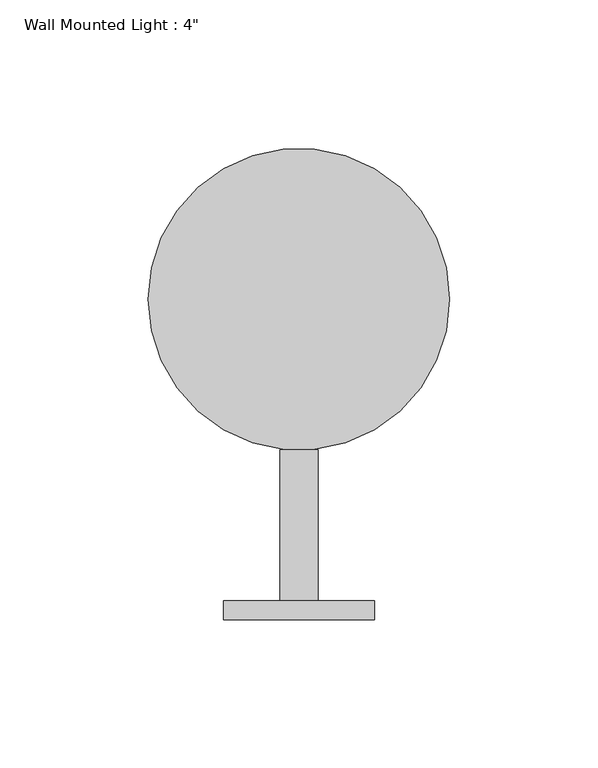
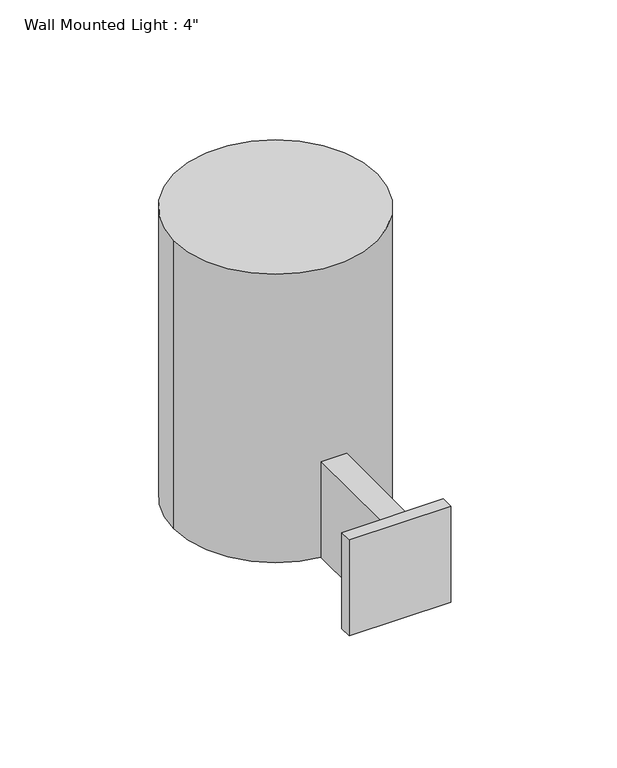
"""IFC4 building model written with IfcOpenShell, lengths in millimetres: light fixture geometry."""

from ifc_helpers import new_model, si_unit, point, frame, frame_2d, origin, place, context, project, spatial, polyline, circle_curve, trimmed, segment, composite_curve, outline, extrude, source, transform, mapped, element, save


def light_fixture_691dc656(model_context):
    return source(origin(), model_context, "Body", "SweptSolid", [
        extrude(outline(polyline([(-25.4, 82.55), (25.4, 82.55), (25.4, 76.2), (-25.4, 76.2), (-25.4, 82.55)])), frame((0.0, 0.0, 4572.0), z_axis=(0.0, 0.0, 1.0), x_axis=(1.0, 0.0, 0.0)), (0.0, 0.0, 1.0), 50.8),
        extrude(outline(polyline([(6.35, 133.35), (6.35, 82.55), (-6.35, 82.55), (-6.35, 133.35), (6.35, 133.35)])), frame((0.0, 0.0, 4572.0), z_axis=(0.0, 0.0, 1.0), x_axis=(1.0, 0.0, 0.0)), (0.0, 0.0, 1.0), 50.8),
        extrude(outline(composite_curve([segment(trimmed(circle_curve(frame_2d((0.0, 184.15)), 50.8), [point((-50.8, 184.15))], [point((50.8, 184.15))], False, "CARTESIAN"), True, "CONTINUOUS"), segment(trimmed(circle_curve(frame_2d((0.0, 184.15)), 50.8), [point((50.8, 184.15))], [point((-50.8, 184.15))], False, "CARTESIAN"), True, "CONTINUOUS")], self_intersect=False)), frame((0.0, 0.0, 4572.0), z_axis=(0.0, 0.0, 1.0), x_axis=(1.0, 0.0, 0.0)), (0.0, 0.0, 1.0), 152.4),
    ])


if __name__ == "__main__":
    model = new_model("IFC4")
    model_context = context("Model", 3, world=origin())
    ifc_project = project(units=[si_unit("LENGTHUNIT", "METRE", prefix="MILLI")], contexts=[model_context])
    site = spatial("IfcSite", under=ifc_project)
    building = spatial("IfcBuilding", under=site)
    placement = place(None, origin())
    light_fixture_shape = light_fixture_691dc656(model_context)
    element("IfcLightFixture", 1, ObjectType="Wall Mounted Light : 4\"", at=placement, inside=building, context=model_context, shape_type="MappedRepresentation", body=[
        mapped(light_fixture_shape, transform((0.0, 0.0, 0.0), x_axis=(1.0, 0.0, 0.0), y_axis=(0.0, 1.0, 0.0), z_axis=(0.0, 0.0, 1.0))),
    ])
    save(model, "model.ifc")
